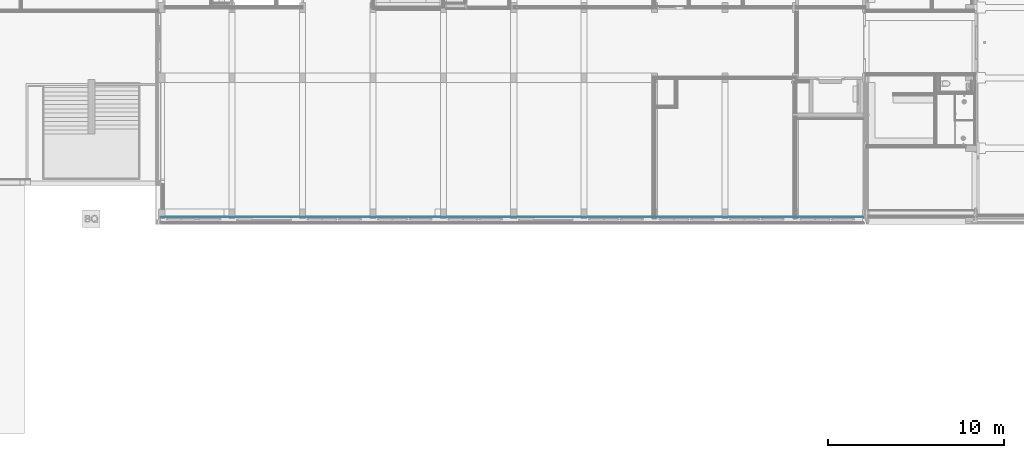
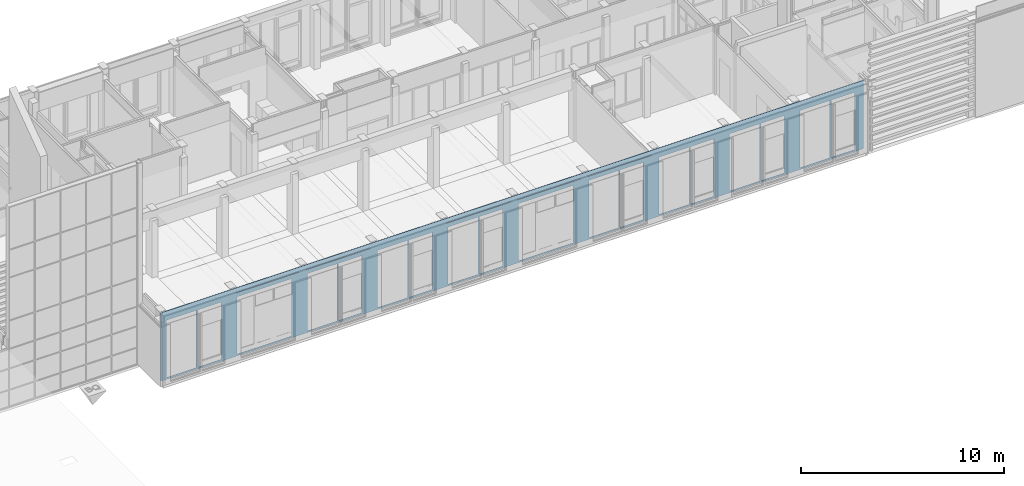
# One storey, part 57 of 109: 2 building element parts, 18 openings, 1 element without a shape of its own.
"""IFC2X3 building model written with IfcOpenShell, lengths in millimetres."""

from ifc_helpers import new_model, entity, si_unit, converted_unit, derived_unit, money_unit, direction, frame, origin_with_axes, place, context, subcontext, project, spatial, faceted_brep, material, type_object, element, aggregate, save


model = new_model("IFC2X3")

# Units and contexts
model_context = context("Model", 3, precision=0.01, world=origin_with_axes(), true_north=direction((0.0, 1.0)))
body_context = subcontext(model_context, "Body", "Model", "MODEL_VIEW")
ifc_project = project(units=[si_unit("LENGTHUNIT", "METRE", prefix="MILLI"), si_unit("AREAUNIT", "SQUARE_METRE"), si_unit("VOLUMEUNIT", "CUBIC_METRE"), converted_unit("PLANEANGLEUNIT", "DEGREE", entity("IfcPlaneAngleMeasure", 0.0174532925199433), si_unit("PLANEANGLEUNIT", "RADIAN"), dimensions=[0, 0, 0, 0, 0, 0, 0]), money_unit("EUR"), converted_unit("TIMEUNIT", "Year", entity("IfcTimeMeasure", 31557600.0), si_unit("TIMEUNIT", "SECOND"), dimensions=[0, 0, 1, 0, 0, 0, 0]), si_unit("MASSUNIT", "GRAM", prefix="KILO"), si_unit("THERMODYNAMICTEMPERATUREUNIT", "DEGREE_CELSIUS"), si_unit("LUMINOUSINTENSITYUNIT", "LUMEN"), si_unit("ENERGYUNIT", "JOULE", prefix="MEGA"), derived_unit("THERMALCONDUCTANCEUNIT", [(si_unit("POWERUNIT", "WATT"), 1), (si_unit("LENGTHUNIT", "METRE"), -1), (si_unit("THERMODYNAMICTEMPERATUREUNIT", "KELVIN"), -1)]), derived_unit("SPECIFICHEATCAPACITYUNIT", [(si_unit("ENERGYUNIT", "JOULE"), 1), (si_unit("MASSUNIT", "GRAM", prefix="KILO"), -1), (si_unit("THERMODYNAMICTEMPERATUREUNIT", "KELVIN"), -1)]), derived_unit("MASSDENSITYUNIT", [(si_unit("MASSUNIT", "GRAM", prefix="KILO"), 1), (si_unit("VOLUMEUNIT", "CUBIC_METRE"), -1)])], contexts=[model_context])

# Site, building, storey
site_placement = place(None, origin_with_axes())
site = spatial("IfcSite", under=ifc_project, at=site_placement, Name="<site naam>", CompositionType="ELEMENT")
building_placement = place(site_placement, origin_with_axes())
building = spatial("IfcBuilding", under=site, at=building_placement, Name="<Naam gebouw>", CompositionType="ELEMENT")
storey_placement = place(building_placement, origin_with_axes())
storey = spatial("IfcBuildingStorey", under=building, at=storey_placement, Name="00 Begane grond", CompositionType="ELEMENT", Elevation=0.0)

# Wall, openings, building element parts
wall_type = type_object("IfcWallType", Name="HSB_285 gevelbeplating 420", PredefinedType="NOTDEFINED")
wall_placement = place(storey_placement, frame((51865.00000000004, -297.9999999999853, 0.0), z_axis=(0.0, 0.0, 1.0), x_axis=(-1.0, 0.0, 0.0)))
wall = element("IfcWall", 1, at=wall_placement, inside=storey, type_object=wall_type, Name="21_Binnenwand_HSB_285")
opening_1_placement = place(wall_placement, frame((37163.99999999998, 0.0, 100.0), z_axis=(0.0, 0.0, 1.0), x_axis=(1.0, 0.0, 0.0)))
element("IfcOpeningElement", 2, at=opening_1_placement, cuts=wall, Name="21_BU-A-01b_305", context=body_context, shape_type="Brep", body=[
    faceted_brep([(-663.0000000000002, -212.9999999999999, 0.0), (-663.0000000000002, -212.9999999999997, 3450.0), (-663.0000000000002, 1.000000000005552, 3450.0), (-663.0000000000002, 1.00000000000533, 0.0), (-663.0000000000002, -421.0000000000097, 0.0), (-663.0000000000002, -421.0000000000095, 3450.0), (663.0000000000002, -212.9999999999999, 3450.0), (663.0000000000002, 1.000000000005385, 3450.0), (663.0000000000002, 1.000000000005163, 0.0), (663.0000000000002, -213.0000000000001, 0.0), (663.0000000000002, -421.0000000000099, 0.0), (663.0000000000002, -421.0000000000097, 3450.0)], [[[0, 1, 2, 3]], [[1, 0, 4, 5]], [[1, 6, 7, 2]], [[7, 8, 3, 2]], [[9, 0, 3, 8]], [[0, 9, 10, 4]], [[5, 4, 10, 11]], [[6, 1, 5, 11]], [[6, 9, 8, 7]], [[9, 6, 11, 10]]]),
])
opening_2_placement = place(wall_placement, frame((38753.9999887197, 0.0, 100.0), z_axis=(0.0, 0.0, 1.0), x_axis=(1.0, 0.0, 0.0)))
element("IfcOpeningElement", 3, at=opening_2_placement, cuts=wall, Name="21_BU-A-01a_305", context=body_context, shape_type="Brep", body=[
    faceted_brep([(-850.9999999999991, -212.9999999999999, 0.0), (-850.9999999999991, -212.9999999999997, 3450.0), (-850.9999999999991, 1.000000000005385, 3450.0), (-850.9999999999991, 1.000000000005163, 0.0), (-850.9999999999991, -421.0000000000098, 0.0), (-850.9999999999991, -421.0000000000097, 3450.0), (850.9999999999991, -212.9999999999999, 3450.0), (851.0000000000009, 1.000000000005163, 3450.0), (851.0000000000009, 1.000000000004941, 0.0), (850.9999999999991, -213.0000000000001, 0.0), (850.9999999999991, -421.00000000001, 0.0), (850.9999999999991, -421.0000000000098, 3450.0)], [[[0, 1, 2, 3]], [[1, 0, 4, 5]], [[1, 6, 7, 2]], [[7, 8, 3, 2]], [[9, 0, 3, 8]], [[0, 9, 10, 4]], [[5, 4, 10, 11]], [[6, 1, 5, 11]], [[6, 9, 8, 7]], [[9, 6, 11, 10]]]),
])
opening_3_placement = place(wall_placement, frame((29164.04998845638, 0.0, 100.0), z_axis=(0.0, 0.0, 1.0), x_axis=(1.0, 0.0, 0.0)))
element("IfcOpeningElement", 4, at=opening_3_placement, cuts=wall, Name="21_BU-A-01b_305", context=body_context, shape_type="Brep", body=[
    faceted_brep([(-663.0000000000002, -212.9999999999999, 0.0), (-663.0000000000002, -212.9999999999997, 3450.0), (-663.0000000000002, 1.000000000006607, 3450.0), (-663.0000000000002, 1.000000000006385, 0.0), (-663.0000000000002, -421.0000000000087, 0.0), (-663.0000000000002, -421.0000000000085, 3450.0), (663.0000000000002, -212.9999999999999, 3450.0), (663.0000000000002, 1.000000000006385, 3450.0), (663.0000000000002, 1.000000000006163, 0.0), (663.0000000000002, -213.0000000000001, 0.0), (663.0000000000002, -421.0000000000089, 0.0), (663.0000000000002, -421.0000000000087, 3450.0)], [[[0, 1, 2, 3]], [[1, 0, 4, 5]], [[1, 6, 7, 2]], [[7, 8, 3, 2]], [[9, 0, 3, 8]], [[0, 9, 10, 4]], [[5, 4, 10, 11]], [[6, 1, 5, 11]], [[6, 9, 8, 7]], [[9, 6, 11, 10]]]),
])
opening_4_placement = place(wall_placement, frame((26754.00000000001, 0.0, 100.0), z_axis=(0.0, 0.0, 1.0), x_axis=(1.0, 0.0, 0.0)))
element("IfcOpeningElement", 5, at=opening_4_placement, cuts=wall, Name="21_BU-A-01a_305", context=body_context, shape_type="Brep", body=[
    faceted_brep([(-850.9999999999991, -212.9999999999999, 0.0), (-850.9999999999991, -212.9999999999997, 3450.0), (-850.9999999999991, 1.000000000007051, 3450.0), (-850.9999999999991, 1.000000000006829, 0.0), (-850.9999999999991, -421.0000000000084, 0.0), (-850.9999999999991, -421.0000000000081, 3450.0), (850.9999999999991, -212.9999999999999, 3450.0), (850.9999999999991, 1.000000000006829, 3450.0), (850.9999999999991, 1.000000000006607, 0.0), (850.9999999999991, -213.0000000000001, 0.0), (850.9999999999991, -421.0000000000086, 0.0), (850.9999999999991, -421.0000000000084, 3450.0)], [[[0, 1, 2, 3]], [[1, 0, 4, 5]], [[1, 6, 7, 2]], [[7, 8, 3, 2]], [[9, 0, 3, 8]], [[0, 9, 10, 4]], [[5, 4, 10, 11]], [[6, 1, 5, 11]], [[6, 9, 8, 7]], [[9, 6, 11, 10]]]),
])
opening_5_placement = place(wall_placement, frame((25163.98053643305, 0.0, 100.0), z_axis=(0.0, 0.0, 1.0), x_axis=(1.0, 0.0, 0.0)))
element("IfcOpeningElement", 6, at=opening_5_placement, cuts=wall, Name="21_BU-A-01b_305", context=body_context, shape_type="Brep", body=[
    faceted_brep([(-663.0000000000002, -212.9999999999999, 0.0), (-663.0000000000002, -212.9999999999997, 3450.0), (-663.0000000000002, 1.000000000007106, 3450.0), (-663.0000000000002, 1.000000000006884, 0.0), (-663.0000000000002, -421.0000000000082, 0.0), (-663.0000000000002, -421.000000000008, 3450.0), (663.0000000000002, -212.9999999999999, 3450.0), (663.0000000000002, 1.00000000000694, 3450.0), (663.0000000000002, 1.000000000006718, 0.0), (663.0000000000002, -213.0000000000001, 0.0), (663.0000000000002, -421.0000000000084, 0.0), (663.0000000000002, -421.0000000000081, 3450.0)], [[[0, 1, 2, 3]], [[1, 0, 4, 5]], [[1, 6, 7, 2]], [[7, 8, 3, 2]], [[9, 0, 3, 8]], [[0, 9, 10, 4]], [[5, 4, 10, 11]], [[6, 1, 5, 11]], [[6, 9, 8, 7]], [[9, 6, 11, 10]]]),
])
opening_6_placement = place(wall_placement, frame((13164.00001128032, 0.0, 100.0), z_axis=(0.0, 0.0, 1.0), x_axis=(1.0, 0.0, 0.0)))
element("IfcOpeningElement", 7, at=opening_6_placement, cuts=wall, Name="21_BU-A-01b_305", context=body_context, shape_type="Brep", body=[
    faceted_brep([(-662.9999999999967, -212.9999999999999, 0.0), (-662.9999999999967, -212.9999999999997, 3450.0), (-662.9999999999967, 1.000000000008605, 3450.0), (-662.9999999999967, 1.000000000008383, 0.0), (-662.9999999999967, -421.0000000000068, 0.0), (-662.9999999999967, -421.0000000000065, 3450.0), (662.9999999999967, -212.9999999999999, 3450.0), (662.9999999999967, 1.000000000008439, 3450.0), (662.9999999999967, 1.000000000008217, 0.0), (662.9999999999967, -213.0000000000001, 0.0), (662.9999999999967, -421.0000000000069, 0.0), (662.9999999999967, -421.0000000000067, 3450.0)], [[[0, 1, 2, 3]], [[1, 0, 4, 5]], [[1, 6, 7, 2]], [[7, 8, 3, 2]], [[9, 0, 3, 8]], [[0, 9, 10, 4]], [[5, 4, 10, 11]], [[6, 1, 5, 11]], [[6, 9, 8, 7]], [[9, 6, 11, 10]]]),
])
opening_7_placement = place(wall_placement, frame((21164.00000000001, 0.0, 100.0), z_axis=(0.0, 0.0, 1.0), x_axis=(1.0, 0.0, 0.0)))
element("IfcOpeningElement", 8, at=opening_7_placement, cuts=wall, Name="21_BU-A-01b_305", context=body_context, shape_type="Brep", body=[
    faceted_brep([(-663.0000000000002, -212.9999999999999, 0.0), (-663.0000000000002, -212.9999999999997, 3450.0), (-663.0000000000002, 1.000000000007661, 3450.0), (-663.0000000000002, 1.000000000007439, 0.0), (-663.0000000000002, -421.0000000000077, 0.0), (-663.0000000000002, -421.0000000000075, 3450.0), (663.0000000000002, -212.9999999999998, 3450.0), (663.0000000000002, 1.000000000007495, 3450.0), (663.0000000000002, 1.000000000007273, 0.0), (663.0000000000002, -213.0000000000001, 0.0), (663.0000000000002, -421.0000000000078, 0.0), (663.0000000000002, -421.0000000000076, 3450.0)], [[[0, 1, 2, 3]], [[1, 0, 4, 5]], [[1, 6, 7, 2]], [[7, 8, 3, 2]], [[9, 0, 3, 8]], [[0, 9, 10, 4]], [[5, 4, 10, 11]], [[6, 1, 5, 11]], [[6, 9, 8, 7]], [[9, 6, 11, 10]]]),
])
opening_8_placement = place(wall_placement, frame((22753.98053643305, 0.0, 100.0), z_axis=(0.0, 0.0, 1.0), x_axis=(1.0, 0.0, 0.0)))
element("IfcOpeningElement", 9, at=opening_8_placement, cuts=wall, Name="21_BU-A-01a_305", context=body_context, shape_type="Brep", body=[
    faceted_brep([(-850.9999999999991, -212.9999999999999, 0.0), (-850.9999999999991, -212.9999999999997, 3450.0), (-850.9999999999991, 1.000000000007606, 3450.0), (-850.9999999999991, 1.000000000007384, 0.0), (-850.9999999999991, -421.0000000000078, 0.0), (-850.9999999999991, -421.0000000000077, 3450.0), (850.9999999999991, -212.9999999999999, 3450.0), (850.9999999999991, 1.000000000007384, 3450.0), (850.9999999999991, 1.000000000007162, 0.0), (850.9999999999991, -213.0000000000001, 0.0), (850.9999999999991, -421.0000000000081, 0.0), (850.9999999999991, -421.0000000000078, 3450.0)], [[[0, 1, 2, 3]], [[1, 0, 4, 5]], [[1, 6, 7, 2]], [[7, 8, 3, 2]], [[9, 0, 3, 8]], [[0, 9, 10, 4]], [[5, 4, 10, 11]], [[6, 1, 5, 11]], [[6, 9, 8, 7]], [[9, 6, 11, 10]]]),
])
opening_9_placement = place(wall_placement, frame((14754.00000000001, 0.0, 100.0), z_axis=(0.0, 0.0, 1.0), x_axis=(1.0, 0.0, 0.0)))
element("IfcOpeningElement", 10, at=opening_9_placement, cuts=wall, Name="21_BU-A-01a_305", context=body_context, shape_type="Brep", body=[
    faceted_brep([(-850.9999999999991, -212.9999999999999, 0.0), (-850.9999999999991, -212.9999999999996, 3450.0), (-850.9999999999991, 1.000000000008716, 3450.0), (-850.9999999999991, 1.000000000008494, 0.0), (-850.9999999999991, -421.0000000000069, 0.0), (-850.9999999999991, -421.0000000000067, 3450.0), (850.9999999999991, -212.9999999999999, 3450.0), (850.9999999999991, 1.000000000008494, 3450.0), (850.9999999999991, 1.000000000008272, 0.0), (850.9999999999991, -213.0000000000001, 0.0), (850.9999999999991, -421.000000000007, 0.0), (850.9999999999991, -421.0000000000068, 3450.0)], [[[0, 1, 2, 3]], [[1, 0, 4, 5]], [[1, 6, 7, 2]], [[7, 8, 3, 2]], [[9, 0, 3, 8]], [[0, 9, 10, 4]], [[5, 4, 10, 11]], [[6, 1, 5, 11]], [[6, 9, 8, 7]], [[9, 6, 11, 10]]]),
])
opening_10_placement = place(wall_placement, frame((10754.00000000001, 0.0, 100.0), z_axis=(0.0, 0.0, 1.0), x_axis=(1.0, 0.0, 0.0)))
element("IfcOpeningElement", 11, at=opening_10_placement, cuts=wall, Name="21_BU-A-01a_305", context=body_context, shape_type="Brep", body=[
    faceted_brep([(-850.9999999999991, -212.9999999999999, 0.0), (-850.9999999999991, -212.9999999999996, 3450.0), (-850.9999999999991, 1.000000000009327, 3450.0), (-850.9999999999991, 1.000000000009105, 0.0), (-850.9999999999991, -421.0000000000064, 0.0), (-850.9999999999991, -421.0000000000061, 3450.0), (850.9999999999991, -212.9999999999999, 3450.0), (850.9999999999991, 1.000000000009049, 3450.0), (850.9999999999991, 1.000000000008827, 0.0), (850.9999999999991, -213.0000000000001, 0.0), (850.9999999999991, -421.0000000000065, 0.0), (850.9999999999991, -421.0000000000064, 3450.0)], [[[0, 1, 2, 3]], [[1, 0, 4, 5]], [[1, 6, 7, 2]], [[7, 8, 3, 2]], [[9, 0, 3, 8]], [[0, 9, 10, 4]], [[5, 4, 10, 11]], [[6, 1, 5, 11]], [[6, 9, 8, 7]], [[9, 6, 11, 10]]]),
])
opening_11_placement = place(wall_placement, frame((5164.000011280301, 0.0, 100.0), z_axis=(0.0, 0.0, 1.0), x_axis=(1.0, 0.0, 0.0)))
element("IfcOpeningElement", 12, at=opening_11_placement, cuts=wall, Name="21_BU-A-01b_305", context=body_context, shape_type="Brep", body=[
    faceted_brep([(-662.9999999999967, -212.9999999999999, 0.0), (-662.9999999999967, -212.9999999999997, 3450.0), (-662.9999999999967, 1.00000000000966, 3450.0), (-662.9999999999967, 1.000000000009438, 0.0), (-662.9999999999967, -421.0000000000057, 0.0), (-662.9999999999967, -421.0000000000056, 3450.0), (662.9999999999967, -212.9999999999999, 3450.0), (662.9999999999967, 1.000000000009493, 3450.0), (662.9999999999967, 1.000000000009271, 0.0), (662.9999999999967, -213.0000000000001, 0.0), (662.9999999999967, -421.0000000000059, 0.0), (662.9999999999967, -421.0000000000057, 3450.0)], [[[0, 1, 2, 3]], [[1, 0, 4, 5]], [[1, 6, 7, 2]], [[7, 8, 3, 2]], [[9, 0, 3, 8]], [[0, 9, 10, 4]], [[5, 4, 10, 11]], [[6, 1, 5, 11]], [[6, 9, 8, 7]], [[9, 6, 11, 10]]]),
])
opening_12_placement = place(wall_placement, frame((6754.000000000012, 0.0, 100.0), z_axis=(0.0, 0.0, 1.0), x_axis=(1.0, 0.0, 0.0)))
element("IfcOpeningElement", 13, at=opening_12_placement, cuts=wall, Name="21_BU-A-01a_305", context=body_context, shape_type="Brep", body=[
    faceted_brep([(-850.9999999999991, -212.9999999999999, 0.0), (-850.9999999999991, -212.9999999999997, 3450.0), (-850.9999999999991, 1.000000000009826, 3450.0), (-850.9999999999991, 1.000000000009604, 0.0), (-850.9999999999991, -421.0000000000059, 0.0), (-850.9999999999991, -421.0000000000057, 3450.0), (850.9999999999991, -212.9999999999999, 3450.0), (850.9999999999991, 1.000000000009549, 3450.0), (850.9999999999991, 1.000000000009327, 0.0), (850.9999999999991, -213.0000000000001, 0.0), (850.9999999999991, -421.0000000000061, 0.0), (850.9999999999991, -421.0000000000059, 3450.0)], [[[0, 1, 2, 3]], [[1, 0, 4, 5]], [[1, 6, 7, 2]], [[7, 8, 3, 2]], [[9, 0, 3, 8]], [[0, 9, 10, 4]], [[5, 4, 10, 11]], [[6, 1, 5, 11]], [[6, 9, 8, 7]], [[9, 6, 11, 10]]]),
])
opening_13_placement = place(wall_placement, frame((1164.000011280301, 0.0, 100.0), z_axis=(0.0, 0.0, 1.0), x_axis=(1.0, 0.0, 0.0)))
element("IfcOpeningElement", 14, at=opening_13_placement, cuts=wall, Name="21_BU-A-01b_305", context=body_context, shape_type="Brep", body=[
    faceted_brep([(-662.9999999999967, -212.9999999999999, 0.0), (-662.9999999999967, -212.9999999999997, 3450.0), (-662.9999999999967, 1.000000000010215, 3450.0), (-662.9999999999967, 1.000000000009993, 0.0), (-662.9999999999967, -421.0000000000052, 0.0), (-662.9999999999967, -421.000000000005, 3450.0), (662.9999999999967, -212.9999999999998, 3450.0), (662.9999999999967, 1.000000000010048, 3450.0), (662.9999999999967, 1.000000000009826, 0.0), (662.9999999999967, -213.0, 0.0), (662.9999999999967, -421.0000000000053, 0.0), (662.9999999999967, -421.0000000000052, 3450.0)], [[[0, 1, 2, 3]], [[1, 0, 4, 5]], [[1, 6, 7, 2]], [[7, 8, 3, 2]], [[9, 0, 3, 8]], [[0, 9, 10, 4]], [[5, 4, 10, 11]], [[6, 1, 5, 11]], [[6, 9, 8, 7]], [[9, 6, 11, 10]]]),
])
opening_14_placement = place(wall_placement, frame((2754.000000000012, 0.0, 100.0), z_axis=(0.0, 0.0, 1.0), x_axis=(1.0, 0.0, 0.0)))
element("IfcOpeningElement", 15, at=opening_14_placement, cuts=wall, Name="21_BU-A-01a_305", context=body_context, shape_type="Brep", body=[
    faceted_brep([(-850.9999999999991, -212.9999999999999, 0.0), (-850.9999999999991, -212.9999999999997, 3450.0), (-850.9999999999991, 1.000000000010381, 3450.0), (-850.9999999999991, 1.000000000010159, 0.0), (-850.9999999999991, -421.0000000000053, 0.0), (-850.9999999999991, -421.0000000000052, 3450.0), (850.9999999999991, -212.9999999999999, 3450.0), (850.9999999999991, 1.000000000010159, 3450.0), (850.9999999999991, 1.000000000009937, 0.0), (850.9999999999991, -213.0000000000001, 0.0), (850.9999999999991, -421.0000000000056, 0.0), (850.9999999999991, -421.0000000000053, 3450.0)], [[[0, 1, 2, 3]], [[1, 0, 4, 5]], [[1, 6, 7, 2]], [[7, 8, 3, 2]], [[9, 0, 3, 8]], [[0, 9, 10, 4]], [[5, 4, 10, 11]], [[6, 1, 5, 11]], [[6, 9, 8, 7]], [[9, 6, 11, 10]]]),
])
opening_15_placement = place(wall_placement, frame((9164.000011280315, 0.0, 100.0), z_axis=(0.0, 0.0, 1.0), x_axis=(1.0, 0.0, 0.0)))
element("IfcOpeningElement", 16, at=opening_15_placement, cuts=wall, Name="21_BU-A-01b_305", context=body_context, shape_type="Brep", body=[
    faceted_brep([(-662.9999999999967, -212.9999999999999, 0.0), (-662.9999999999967, -212.9999999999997, 3450.0), (-662.9999999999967, 1.000000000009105, 3450.0), (-662.9999999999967, 1.000000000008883, 0.0), (-662.9999999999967, -421.0000000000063, 0.0), (-662.9999999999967, -421.000000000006, 3450.0), (662.9999999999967, -212.9999999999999, 3450.0), (662.9999999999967, 1.000000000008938, 3450.0), (662.9999999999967, 1.000000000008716, 0.0), (662.9999999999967, -213.0000000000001, 0.0), (662.9999999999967, -421.0000000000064, 0.0), (662.9999999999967, -421.0000000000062, 3450.0)], [[[0, 1, 2, 3]], [[1, 0, 4, 5]], [[1, 6, 7, 2]], [[7, 8, 3, 2]], [[9, 0, 3, 8]], [[0, 9, 10, 4]], [[5, 4, 10, 11]], [[6, 1, 5, 11]], [[6, 9, 8, 7]], [[9, 6, 11, 10]]]),
])
opening_16_placement = place(wall_placement, frame((34053.00007085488, 0.0, 103.0000398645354), z_axis=(0.0, 0.0, 1.0), x_axis=(1.0, 0.0, 0.0)))
element("IfcOpeningElement", 17, at=opening_16_placement, cuts=wall, Name="21_BU-C-01_305", context=body_context, shape_type="Brep", body=[
    faceted_brep([(-1551.999929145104, -205.0, 0.0), (-1551.999929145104, -204.9999999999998, 3451.998648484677), (-1551.999929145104, 1.000000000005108, 3451.998648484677), (-1551.999929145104, 1.000000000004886, 0.0), (-1551.999929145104, -421.0000000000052, 0.0), (-1551.999929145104, -421.000000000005, 3451.998648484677), (1551.999929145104, -204.9999999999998, 3451.998648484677), (1551.999929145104, 1.000000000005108, 3451.998648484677), (1551.999929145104, 1.000000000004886, 0.0), (1551.999929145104, -205.0, 0.0), (1551.999929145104, -421.0000000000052, 0.0), (1551.999929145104, -421.0000000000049, 3451.998648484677)], [[[0, 1, 2, 3]], [[1, 0, 4, 5]], [[1, 6, 7, 2]], [[7, 8, 3, 2]], [[9, 0, 3, 8]], [[0, 9, 10, 4]], [[5, 4, 10, 11]], [[6, 1, 5, 11]], [[6, 9, 8, 7]], [[9, 6, 11, 10]]]),
])
opening_17_placement = place(wall_placement, frame((18053.00484185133, 0.0, 103.0000398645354), z_axis=(0.0, 0.0, 1.0), x_axis=(1.0, 0.0, 0.0)))
element("IfcOpeningElement", 18, at=opening_17_placement, cuts=wall, Name="21_BU-C-01_305", context=body_context, shape_type="Brep", body=[
    faceted_brep([(-1551.999929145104, -205.0, 0.0), (-1551.999929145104, -204.9999999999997, 3451.998648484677), (-1551.999929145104, 1.000000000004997, 3451.998648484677), (-1551.999929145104, 1.00000000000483, 0.0), (-1551.999929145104, -421.0000000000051, 0.0), (-1551.999929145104, -421.0000000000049, 3451.998648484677), (1551.999929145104, -204.9999999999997, 3451.998648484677), (1551.999929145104, 1.000000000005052, 3451.998648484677), (1551.999929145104, 1.00000000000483, 0.0), (1551.999929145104, -205.0, 0.0), (1551.999929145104, -421.0000000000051, 0.0), (1551.999929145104, -421.0000000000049, 3451.998648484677)], [[[0, 1, 2, 3]], [[1, 0, 4, 5]], [[1, 6, 7, 2]], [[7, 8, 3, 2]], [[9, 0, 3, 8]], [[0, 9, 10, 4]], [[5, 4, 10, 11]], [[6, 1, 5, 11]], [[6, 9, 8, 7]], [[9, 6, 11, 10]]]),
])
opening_18_placement = place(wall_placement, frame((30754.04506446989, 0.0, 100.0), z_axis=(0.0, 0.0, 1.0), x_axis=(1.0, 0.0, 0.0)))
element("IfcOpeningElement", 19, at=opening_18_placement, cuts=wall, Name="21_BU-A-01a_305", context=body_context, shape_type="Brep", body=[
    faceted_brep([(-850.9999999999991, -212.9999999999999, 0.0), (-850.9999999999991, -212.9999999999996, 3450.0), (-850.9999999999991, 1.000000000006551, 3450.0), (-850.9999999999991, 1.000000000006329, 0.0), (-850.9999999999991, -421.0000000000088, 0.0), (-850.9999999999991, -421.0000000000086, 3450.0), (850.9999999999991, -212.9999999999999, 3450.0), (850.9999999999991, 1.000000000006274, 3450.0), (850.9999999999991, 1.000000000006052, 0.0), (850.9999999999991, -213.0000000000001, 0.0), (850.9999999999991, -421.000000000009, 0.0), (850.9999999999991, -421.0000000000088, 3450.0)], [[[0, 1, 2, 3]], [[1, 0, 4, 5]], [[1, 6, 7, 2]], [[7, 8, 3, 2]], [[9, 0, 3, 8]], [[0, 9, 10, 4]], [[5, 4, 10, 11]], [[6, 1, 5, 11]], [[6, 9, 8, 7]], [[9, 6, 11, 10]]]),
])
ifc_material_1 = material(Name="gipsplaat")
building_element_part_1_placement = place(wall_placement, origin_with_axes())
building_element_part_1 = element("IfcBuildingElementPart", 20, at=building_element_part_1_placement, material=ifc_material_1, Name="gipsplaat", context=body_context, shape_type="Brep", body=[
    faceted_brep([(35690.0, -419.9999999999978, 3.000000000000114), (35690.0, -419.9999999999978, 0.0), (39930.00004797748, -419.9999999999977, 0.0), (39930.00004797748, -419.9999999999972, 4100.000039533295), (3689.99999999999, -419.9999999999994, 4100.000000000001), (3689.99999999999, -419.9999999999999, 3700.0), (4.203939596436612e-05, -420.0000000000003, 3700.0), (0.0, -419.9999999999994, 3.000000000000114), (3790.00000000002, -419.9999999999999, 3.000000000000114), (3790.00000000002, -419.999999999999, 0.0), (4040.000017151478, -419.9999999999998, 0.0), (4040.000017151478, -419.9999999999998, 3.000000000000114), (11789.99997328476, -419.9999999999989, 3.000000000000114), (11789.99997328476, -419.9999999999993, 0.0), (11940.00000000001, -419.9999999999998, 0.0), (11940.00000000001, -419.9999999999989, 3.000000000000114), (35689.99995939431, -419.9999999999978, 3800.0), (32040.00001154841, -419.9999999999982, 3800.0), (32040.00001154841, -419.9999999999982, 3825.0), (35689.99995939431, -419.9999999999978, 3825.0), (15689.99989679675, -419.9999999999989, 3800.0), (12040.00003924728, -419.9999999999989, 3800.0), (12040.00003924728, -419.9999999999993, 3825.0), (15689.99989679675, -419.9999999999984, 3825.0), (19689.99974984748, -419.9999999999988, 3800.0), (16040.00005855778, -419.9999999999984, 3800.0), (16040.00005855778, -419.9999999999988, 3825.0), (19689.99974984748, -419.9999999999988, 3825.0), (23690.00012884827, -419.9999999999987, 3800.0), (20039.99985804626, -419.9999999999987, 3800.0), (20039.99985804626, -419.9999999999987, 3825.0), (23690.00012884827, -419.9999999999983, 3825.0), (27689.9999341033, -419.9999999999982, 3800.0), (24339.98058077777, -419.9999999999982, 3800.0), (24339.98058077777, -419.9999999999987, 3825.0), (27689.9999341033, -419.9999999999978, 3825.0), (31690.00021608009, -419.9999999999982, 3800.0), (28039.9998997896, -419.9999999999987, 3800.0), (28039.9998997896, -419.9999999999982, 3825.0), (31690.00021608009, -419.9999999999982, 3825.0), (39689.99992574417, -419.9999999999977, 3700.0), (36339.99996037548, -419.9999999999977, 3700.0), (36339.99996037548, -419.9999999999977, 3725.0), (39689.99992574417, -419.9999999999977, 3725.0), (11690.00000000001, -419.9999999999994, 3700.0), (8040.000009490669, -419.9999999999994, 3700.0), (8040.000009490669, -419.9999999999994, 3740.0), (11690.00000000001, -419.9999999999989, 3740.0), (7689.999953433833, -419.9999999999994, 3700.0), (4040.000000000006, -419.9999999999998, 3700.0), (4040.000000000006, -419.9999999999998, 3740.0), (7689.999953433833, -419.9999999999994, 3740.0), (35690.0, -407.4999999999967, 3.000000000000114), (35690.0, -407.4999999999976, 0.0), (39930.00004797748, -407.4999999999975, 0.0), (39930.00004797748, -407.499999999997, 4100.000039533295), (3689.99999999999, -407.4999999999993, 4100.000000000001), (3689.99999999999, -407.4999999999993, 3700.0), (4.203939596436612e-05, -407.5000000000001, 3700.0), (0.0, -407.5000000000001, 3.000000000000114), (3790.00000000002, -407.4999999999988, 3.000000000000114), (3790.00000000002, -407.4999999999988, 0.0), (4040.000017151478, -407.4999999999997, 0.0), (4040.000017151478, -407.4999999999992, 3.000000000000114), (11789.99997328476, -407.4999999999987, 3.000000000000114), (11789.99997328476, -407.4999999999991, 0.0), (11940.00000000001, -407.4999999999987, 0.0), (11940.00000000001, -407.4999999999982, 3.000000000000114), (35689.99995939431, -407.4999999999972, 3800.0), (32040.00001154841, -407.4999999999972, 3800.0), (32040.00001154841, -407.4999999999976, 3825.0), (35689.99995939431, -407.4999999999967, 3825.0), (15689.99989679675, -407.4999999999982, 3800.0), (12040.00003905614, -407.4999999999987, 3800.0), (12040.00003905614, -407.4999999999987, 3825.0), (15689.99989679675, -407.4999999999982, 3825.0), (19689.99974984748, -407.4999999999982, 3800.0), (16040.00005855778, -407.4999999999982, 3800.0), (16040.00005855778, -407.4999999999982, 3825.0), (19689.99974984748, -407.4999999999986, 3825.0), (23690.00012884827, -407.4999999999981, 3800.0), (20039.99985804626, -407.4999999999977, 3800.0), (20039.99985804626, -407.4999999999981, 3825.0), (23690.00012884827, -407.4999999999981, 3825.0), (27689.9999341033, -414.0000000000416, 3800.0), (24339.98058077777, -414.000000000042, 3800.0), (24339.98058077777, -414.000000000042, 3825.0), (27689.9999341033, -414.0000000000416, 3825.0), (31690.00021647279, -407.4999999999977, 3800.0), (28039.9998997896, -407.4999999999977, 3800.0), (28039.9998997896, -407.4999999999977, 3825.0), (31690.00021647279, -407.4999999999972, 3825.0), (39689.99992574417, -413.9999999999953, 3700.0), (36339.99996037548, -413.9999999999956, 3700.0), (36339.99996037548, -413.9999999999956, 3725.0), (39689.99992574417, -413.9999999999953, 3725.0), (11690.00000000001, -407.4999999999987, 3700.0), (8040.000009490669, -407.4999999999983, 3700.0), (8040.000009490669, -407.4999999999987, 3740.0), (11690.00000000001, -407.4999999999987, 3740.0), (7689.999953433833, -407.4999999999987, 3700.0), (4040.000000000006, -407.4999999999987, 3700.0), (4040.000000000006, -407.4999999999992, 3740.0), (7689.999953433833, -407.4999999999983, 3740.0)], [[[0, 1, 2, 3, 4, 5, 6, 7, 8, 9, 10, 11, 12, 13, 14, 15], [16, 17, 18, 19], [20, 21, 22, 23], [24, 25, 26, 27], [28, 29, 30, 31], [32, 33, 34, 35], [36, 37, 38, 39], [40, 41, 42, 43], [44, 45, 46, 47], [48, 49, 50, 51]], [[1, 0, 52, 53]], [[1, 53, 54, 2]], [[55, 3, 2, 54]], [[56, 4, 3, 55]], [[5, 4, 56, 57]], [[58, 6, 5, 57]], [[6, 58, 59, 7]], [[8, 7, 59, 60]], [[9, 8, 60, 61]], [[9, 61, 62, 10]], [[11, 10, 62, 63]], [[12, 11, 63, 64]], [[13, 12, 64, 65]], [[66, 14, 13, 65]], [[15, 14, 66, 67]], [[0, 15, 67, 52]], [[17, 16, 68, 69]], [[18, 17, 69, 70]], [[19, 18, 70, 71]], [[16, 19, 71, 68]], [[21, 20, 72, 73]], [[22, 21, 73, 74]], [[23, 22, 74, 75]], [[20, 23, 75, 72]], [[25, 24, 76, 77]], [[26, 25, 77, 78]], [[27, 26, 78, 79]], [[24, 27, 79, 76]], [[29, 28, 80, 81]], [[30, 29, 81, 82]], [[31, 30, 82, 83]], [[28, 31, 83, 80]], [[33, 32, 84, 85]], [[34, 33, 85, 86]], [[35, 34, 86, 87]], [[32, 35, 87, 84]], [[37, 36, 88, 89]], [[38, 37, 89, 90]], [[39, 38, 90, 91]], [[36, 39, 91, 88]], [[41, 40, 92, 93]], [[42, 41, 93, 94]], [[43, 42, 94, 95]], [[40, 43, 95, 92]], [[45, 44, 96, 97]], [[46, 45, 97, 98]], [[47, 46, 98, 99]], [[44, 47, 99, 96]], [[49, 48, 100, 101]], [[50, 49, 101, 102]], [[51, 50, 102, 103]], [[48, 51, 103, 100]], [[67, 66, 65, 64, 63, 62, 61, 60, 59, 58, 57, 56, 55, 54, 53, 52], [68, 71, 70, 69], [72, 75, 74, 73], [76, 79, 78, 77], [80, 83, 82, 81], [88, 91, 90, 89], [96, 99, 98, 97], [100, 103, 102, 101]], [[84, 87, 86, 85]], [[92, 95, 94, 93]]]),
])
ifc_material_2 = material(Name="hout_OSB")
building_element_part_2_placement = place(wall_placement, origin_with_axes())
building_element_part_2 = element("IfcBuildingElementPart", 21, at=building_element_part_2_placement, material=ifc_material_2, Name="hout_OSB", context=body_context, shape_type="Brep", body=[
    faceted_brep([(35690.0, -407.4999999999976, 3.000000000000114), (35690.0, -407.4999999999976, 0.0), (39930.00004797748, -407.4999999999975, 0.0), (39930.00004797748, -407.499999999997, 4100.000039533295), (0.0, -407.4999999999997, 4100.000039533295), (0.0, -407.5000000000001, 3.000000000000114), (3790.00000000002, -407.4999999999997, 3.000000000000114), (3790.00000000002, -407.5000000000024, 0.0), (4040.000017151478, -407.5000000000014, 0.0), (4040.000017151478, -407.4999999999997, 3.000000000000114), (11789.99997328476, -407.4999999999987, 3.000000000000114), (11789.99997328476, -407.4999999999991, 0.0), (11940.00000000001, -407.4999999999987, 0.0), (11940.00000000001, -407.4999999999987, 3.000000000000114), (35689.99995939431, -407.4999999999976, 3800.0), (32040.00001154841, -407.499999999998, 3800.0), (32040.00001154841, -407.499999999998, 3825.0), (35689.99995939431, -407.4999999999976, 3825.0), (15689.99989679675, -407.4999999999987, 3800.0), (12040.00003905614, -407.4999999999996, 3800.0), (12040.00003905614, -407.4999999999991, 3825.0), (15689.99989679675, -407.4999999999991, 3825.0), (19689.99974984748, -407.4999999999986, 3800.0), (16040.00005855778, -407.4999999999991, 3800.0), (16040.00005855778, -407.4999999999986, 3825.0), (19689.99974984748, -407.4999999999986, 3825.0), (23690.00012884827, -407.4999999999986, 3800.0), (20039.99985804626, -407.4999999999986, 3800.0), (20039.99985804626, -407.4999999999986, 3825.0), (23690.00012884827, -407.499999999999, 3825.0), (31690.00021647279, -407.4999999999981, 3800.0), (28039.9998997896, -407.4999999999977, 3800.0), (28039.9998997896, -407.4999999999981, 3825.0), (31690.00021647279, -407.4999999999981, 3825.0), (35690.0, -392.4999999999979, 3.000000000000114), (35690.0, -392.4999999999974, 0.0), (39930.00004797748, -392.4999999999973, 0.0), (39930.00004797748, -392.4999999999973, 4100.000039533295), (0.0, -392.4999999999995, 4100.000039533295), (0.0, -392.4999999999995, 3.000000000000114), (3790.00000000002, -392.4999999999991, 3.000000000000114), (3790.00000000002, -392.4999999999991, 0.0), (4040.000017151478, -392.4999999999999, 0.0), (4040.000017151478, -392.4999999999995, 3.000000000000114), (11789.99997328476, -392.499999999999, 3.000000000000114), (11789.99997328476, -392.499999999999, 0.0), (11940.00000000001, -392.499999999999, 0.0), (11940.00000000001, -392.4999999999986, 3.000000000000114), (35689.99995939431, -392.4999999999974, 3800.0), (32040.00001154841, -392.4999999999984, 3800.0), (32040.00001154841, -392.4999999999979, 3825.0), (35689.99995939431, -392.4999999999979, 3825.0), (15689.99989679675, -392.4999999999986, 3800.0), (12040.00003882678, -392.499999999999, 3800.0), (12040.00003882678, -392.499999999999, 3825.0), (15689.99989679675, -392.4999999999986, 3825.0), (19689.99974984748, -392.4999999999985, 3800.0), (16040.00005855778, -392.4999999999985, 3800.0), (16040.00005855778, -392.4999999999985, 3825.0), (19689.99974984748, -392.4999999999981, 3825.0), (23690.00012884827, -392.4999999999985, 3800.0), (20039.99985804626, -392.4999999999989, 3800.0), (20039.99985804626, -392.4999999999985, 3825.0), (23690.00012884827, -392.4999999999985, 3825.0), (31690.00021694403, -392.499999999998, 3800.0), (28039.9998997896, -392.499999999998, 3800.0), (28039.9998997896, -392.499999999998, 3825.0), (31690.00021694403, -392.4999999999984, 3825.0)], [[[0, 1, 2, 3, 4, 5, 6, 7, 8, 9, 10, 11, 12, 13], [14, 15, 16, 17], [18, 19, 20, 21], [22, 23, 24, 25], [26, 27, 28, 29], [30, 31, 32, 33]], [[1, 0, 34, 35]], [[1, 35, 36, 2]], [[37, 3, 2, 36]], [[4, 3, 37, 38]], [[39, 5, 4, 38]], [[6, 5, 39, 40]], [[7, 6, 40, 41]], [[7, 41, 42, 8]], [[9, 8, 42, 43]], [[10, 9, 43, 44]], [[11, 10, 44, 45]], [[46, 12, 11, 45]], [[13, 12, 46, 47]], [[0, 13, 47, 34]], [[15, 14, 48, 49]], [[16, 15, 49, 50]], [[17, 16, 50, 51]], [[14, 17, 51, 48]], [[19, 18, 52, 53]], [[20, 19, 53, 54]], [[21, 20, 54, 55]], [[18, 21, 55, 52]], [[23, 22, 56, 57]], [[24, 23, 57, 58]], [[25, 24, 58, 59]], [[22, 25, 59, 56]], [[27, 26, 60, 61]], [[28, 27, 61, 62]], [[29, 28, 62, 63]], [[26, 29, 63, 60]], [[31, 30, 64, 65]], [[32, 31, 65, 66]], [[33, 32, 66, 67]], [[30, 33, 67, 64]], [[47, 46, 45, 44, 43, 42, 41, 40, 39, 38, 37, 36, 35, 34], [48, 51, 50, 49], [52, 55, 54, 53], [56, 59, 58, 57], [60, 63, 62, 61], [64, 67, 66, 65]]]),
])
aggregate(wall, [building_element_part_1, building_element_part_2])

save(model, "model.ifc")
